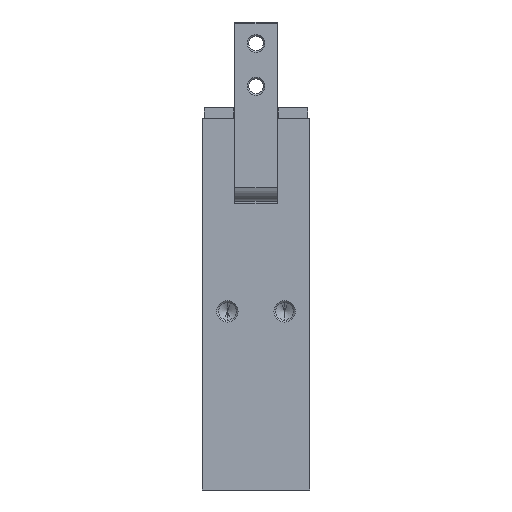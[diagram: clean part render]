
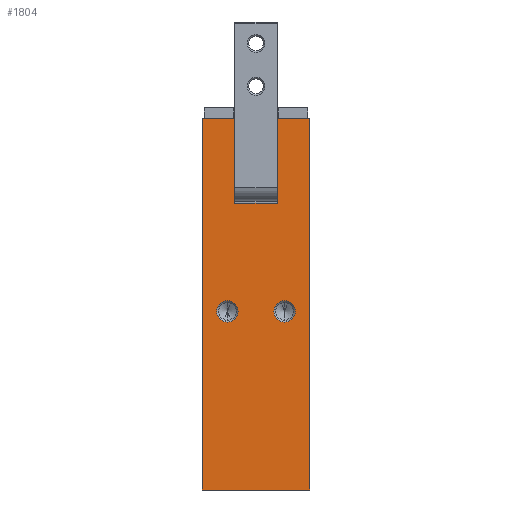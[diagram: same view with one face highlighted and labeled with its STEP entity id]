
A CAD part, left-side view. The second image highlights one B-rep face of the part: STEP entity #1804.
In plain terms, the highlighted planar face has unit normal (-1, 0, 0).
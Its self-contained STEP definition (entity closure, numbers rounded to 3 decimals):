
#185 = EDGE_CURVE ( 'NONE', #4866, #4394, #1035, .T. ) ;
#258 = VERTEX_POINT ( 'NONE', #1367 ) ;
#295 = EDGE_LOOP ( 'NONE', ( #2138, #5349 ) ) ;
#353 = EDGE_CURVE ( 'NONE', #4321, #6392, #949, .T. ) ;
#364 = CARTESIAN_POINT ( 'NONE',  ( -29., 15., 0. ) ) ;
#369 = CARTESIAN_POINT ( 'NONE',  ( -29., 8., 53. ) ) ;
#483 = DIRECTION ( 'NONE',  ( 0., -1., 0. ) ) ;
#485 = VERTEX_POINT ( 'NONE', #5583 ) ;
#555 = DIRECTION ( 'NONE',  ( 0., 0., -1. ) ) ;
#562 = VECTOR ( 'NONE', #6182, 1000. ) ;
#576 = CARTESIAN_POINT ( 'NONE',  ( -29., -6., 104. ) ) ;
#678 = CARTESIAN_POINT ( 'NONE',  ( -29., 8., 50. ) ) ;
#699 = CARTESIAN_POINT ( 'NONE',  ( -29., -15., 104. ) ) ;
#702 = EDGE_CURVE ( 'NONE', #485, #258, #6332, .T. ) ;
#792 = VECTOR ( 'NONE', #483, 1000. ) ;
#904 = DIRECTION ( 'NONE',  ( 0., 0., -1. ) ) ;
#919 = CARTESIAN_POINT ( 'NONE',  ( -29., -8., 50. ) ) ;
#949 = LINE ( 'NONE', #6584, #792 ) ;
#992 = VECTOR ( 'NONE', #555, 1000. ) ;
#1005 = VERTEX_POINT ( 'NONE', #369 ) ;
#1035 = CIRCLE ( 'NONE', #1419, 3. ) ;
#1230 = CIRCLE ( 'NONE', #5664, 3. ) ;
#1235 = CARTESIAN_POINT ( 'NONE',  ( -29., -8., 53. ) ) ;
#1270 = CIRCLE ( 'NONE', #1652, 3. ) ;
#1367 = CARTESIAN_POINT ( 'NONE',  ( -29., -15., 0. ) ) ;
#1419 = AXIS2_PLACEMENT_3D ( 'NONE', #5300, #5814, #6342 ) ;
#1496 = CARTESIAN_POINT ( 'NONE',  ( -29., 8., 47. ) ) ;
#1513 = ORIENTED_EDGE ( 'NONE', *, *, #4847, .T. ) ;
#1622 = CARTESIAN_POINT ( 'NONE',  ( -29., -6., 104. ) ) ;
#1652 = AXIS2_PLACEMENT_3D ( 'NONE', #919, #4495, #904 ) ;
#1679 = ORIENTED_EDGE ( 'NONE', *, *, #6231, .T. ) ;
#1698 = CARTESIAN_POINT ( 'NONE',  ( -29., 6., 80.2 ) ) ;
#1716 = CARTESIAN_POINT ( 'NONE',  ( -29., -8., 47. ) ) ;
#1804 = ADVANCED_FACE ( 'NONE', ( #4311, #2951, #3105 ), #2703, .F. ) ;
#2033 = ORIENTED_EDGE ( 'NONE', *, *, #6333, .T. ) ;
#2138 = ORIENTED_EDGE ( 'NONE', *, *, #185, .T. ) ;
#2153 = CARTESIAN_POINT ( 'NONE',  ( -29., -15., 104. ) ) ;
#2179 = DIRECTION ( 'NONE',  ( 1., 0., 0. ) ) ;
#2198 = CARTESIAN_POINT ( 'NONE',  ( -29., -6., 80.2 ) ) ;
#2231 = DIRECTION ( 'NONE',  ( 0., -1., 0. ) ) ;
#2285 = EDGE_LOOP ( 'NONE', ( #1513, #5670, #4664, #2374, #4614, #2920, #1679, #5114 ) ) ;
#2313 = CARTESIAN_POINT ( 'NONE',  ( -29., 15., 104. ) ) ;
#2317 = CARTESIAN_POINT ( 'NONE',  ( -29., 8., 50. ) ) ;
#2374 = ORIENTED_EDGE ( 'NONE', *, *, #702, .T. ) ;
#2439 = VERTEX_POINT ( 'NONE', #2646 ) ;
#2610 = CARTESIAN_POINT ( 'NONE',  ( -29., 15., 104. ) ) ;
#2646 = CARTESIAN_POINT ( 'NONE',  ( -29., 6., 80.2 ) ) ;
#2703 = PLANE ( 'NONE',  #4798 ) ;
#2721 = EDGE_LOOP ( 'NONE', ( #2033, #6291 ) ) ;
#2783 = LINE ( 'NONE', #1698, #562 ) ;
#2881 = CARTESIAN_POINT ( 'NONE',  ( -29., -6., 80.2 ) ) ;
#2920 = ORIENTED_EDGE ( 'NONE', *, *, #353, .F. ) ;
#2951 = FACE_BOUND ( 'NONE', #295, .T. ) ;
#3001 = CIRCLE ( 'NONE', #3128, 3. ) ;
#3021 = EDGE_CURVE ( 'NONE', #4394, #4866, #1270, .T. ) ;
#3098 = VECTOR ( 'NONE', #2231, 1000. ) ;
#3105 = FACE_BOUND ( 'NONE', #2721, .T. ) ;
#3117 = DIRECTION ( 'NONE',  ( 0., 0., -1. ) ) ;
#3128 = AXIS2_PLACEMENT_3D ( 'NONE', #2317, #3270, #3330 ) ;
#3171 = DIRECTION ( 'NONE',  ( 1., 0., 0. ) ) ;
#3175 = DIRECTION ( 'NONE',  ( 0., 1., 0. ) ) ;
#3182 = EDGE_CURVE ( 'NONE', #5925, #1005, #3001, .T. ) ;
#3215 = DIRECTION ( 'NONE',  ( 0., 0., -1. ) ) ;
#3253 = EDGE_CURVE ( 'NONE', #4839, #2439, #6477, .T. ) ;
#3265 = LINE ( 'NONE', #2313, #3098 ) ;
#3270 = DIRECTION ( 'NONE',  ( 1., 0., 0. ) ) ;
#3322 = VERTEX_POINT ( 'NONE', #5284 ) ;
#3330 = DIRECTION ( 'NONE',  ( 0., 0., -1. ) ) ;
#3736 = CARTESIAN_POINT ( 'NONE',  ( -29., 6., 104. ) ) ;
#3850 = VECTOR ( 'NONE', #4254, 1000. ) ;
#3862 = DIRECTION ( 'NONE',  ( 0., 1., 0. ) ) ;
#3899 = VERTEX_POINT ( 'NONE', #3736 ) ;
#4113 = VECTOR ( 'NONE', #4412, 1000. ) ;
#4254 = DIRECTION ( 'NONE',  ( 0., 0., -1. ) ) ;
#4311 = FACE_OUTER_BOUND ( 'NONE', #2285, .T. ) ;
#4315 = EDGE_CURVE ( 'NONE', #3322, #485, #5350, .T. ) ;
#4321 = VERTEX_POINT ( 'NONE', #1622 ) ;
#4394 = VERTEX_POINT ( 'NONE', #1716 ) ;
#4411 = EDGE_CURVE ( 'NONE', #6392, #258, #6541, .T. ) ;
#4412 = DIRECTION ( 'NONE',  ( 0., -1., 0. ) ) ;
#4495 = DIRECTION ( 'NONE',  ( 1., 0., 0. ) ) ;
#4614 = ORIENTED_EDGE ( 'NONE', *, *, #4411, .F. ) ;
#4664 = ORIENTED_EDGE ( 'NONE', *, *, #4315, .T. ) ;
#4798 = AXIS2_PLACEMENT_3D ( 'NONE', #6254, #2179, #3175 ) ;
#4839 = VERTEX_POINT ( 'NONE', #2198 ) ;
#4847 = EDGE_CURVE ( 'NONE', #2439, #3899, #2783, .T. ) ;
#4860 = EDGE_CURVE ( 'NONE', #3322, #3899, #3265, .T. ) ;
#4866 = VERTEX_POINT ( 'NONE', #1235 ) ;
#5107 = LINE ( 'NONE', #576, #992 ) ;
#5114 = ORIENTED_EDGE ( 'NONE', *, *, #3253, .T. ) ;
#5115 = VECTOR ( 'NONE', #3117, 1000. ) ;
#5127 = VECTOR ( 'NONE', #3862, 1000. ) ;
#5284 = CARTESIAN_POINT ( 'NONE',  ( -29., 15., 104. ) ) ;
#5300 = CARTESIAN_POINT ( 'NONE',  ( -29., -8., 50. ) ) ;
#5349 = ORIENTED_EDGE ( 'NONE', *, *, #3021, .T. ) ;
#5350 = LINE ( 'NONE', #2610, #5115 ) ;
#5583 = CARTESIAN_POINT ( 'NONE',  ( -29., 15., 0. ) ) ;
#5664 = AXIS2_PLACEMENT_3D ( 'NONE', #678, #3171, #3215 ) ;
#5670 = ORIENTED_EDGE ( 'NONE', *, *, #4860, .F. ) ;
#5814 = DIRECTION ( 'NONE',  ( 1., 0., 0. ) ) ;
#5925 = VERTEX_POINT ( 'NONE', #1496 ) ;
#6182 = DIRECTION ( 'NONE',  ( 0., 0., 1. ) ) ;
#6231 = EDGE_CURVE ( 'NONE', #4321, #4839, #5107, .T. ) ;
#6254 = CARTESIAN_POINT ( 'NONE',  ( -29., 15., 104. ) ) ;
#6291 = ORIENTED_EDGE ( 'NONE', *, *, #3182, .T. ) ;
#6332 = LINE ( 'NONE', #364, #4113 ) ;
#6333 = EDGE_CURVE ( 'NONE', #1005, #5925, #1230, .T. ) ;
#6342 = DIRECTION ( 'NONE',  ( 0., 0., -1. ) ) ;
#6392 = VERTEX_POINT ( 'NONE', #2153 ) ;
#6477 = LINE ( 'NONE', #2881, #5127 ) ;
#6541 = LINE ( 'NONE', #699, #3850 ) ;
#6584 = CARTESIAN_POINT ( 'NONE',  ( -29., 15., 104. ) ) ;
